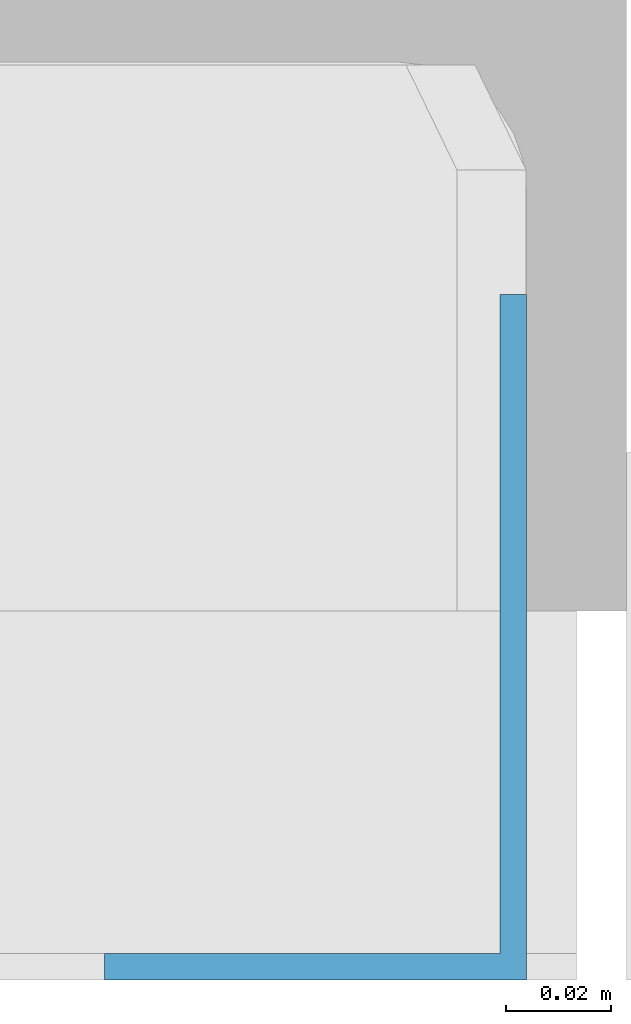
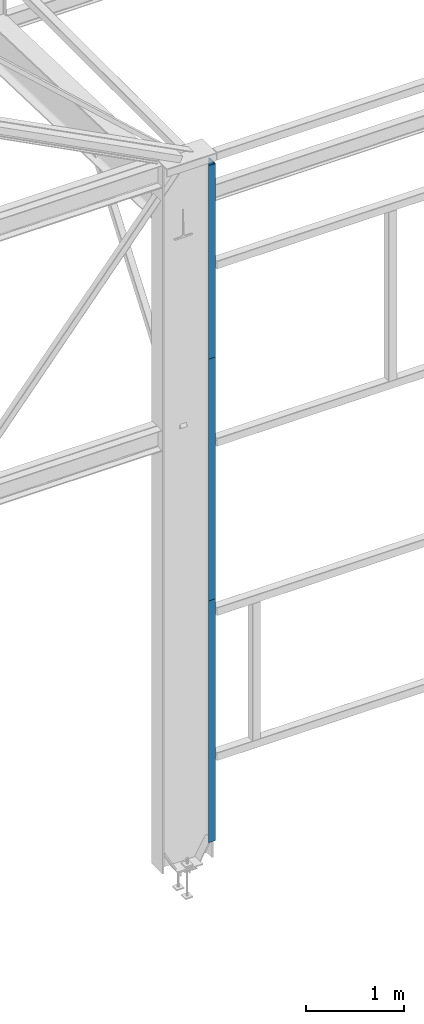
# One storey, part 118 of 123: 3 beams, 3 elements without a shape of their own.
"""IFC2X3 building model written with IfcOpenShell, lengths in millimetres."""

from ifc_helpers import new_model, si_unit, frame, origin_with_axes, place, context, subcontext, project, spatial, faceted_brep, material, type_object, element, aggregate, save


model = new_model("IFC2X3")

# Units and contexts
model_context = context("Model", 3, precision=1e-05, world=origin_with_axes())
body_context = subcontext(model_context, "Body", "Model", "MODEL_VIEW")
ifc_project = project(units=[si_unit("LENGTHUNIT", "METRE", prefix="MILLI"), si_unit("AREAUNIT", "SQUARE_METRE"), si_unit("VOLUMEUNIT", "CUBIC_METRE"), si_unit("MASSUNIT", "GRAM", prefix="KILO"), si_unit("TIMEUNIT", "SECOND"), si_unit("PLANEANGLEUNIT", "RADIAN"), si_unit("SOLIDANGLEUNIT", "STERADIAN"), si_unit("THERMODYNAMICTEMPERATUREUNIT", "DEGREE_CELSIUS"), si_unit("LUMINOUSINTENSITYUNIT", "LUMEN")], contexts=[model_context])

# Site, building, storey
site_placement = place(None, origin_with_axes())
site = spatial("IfcSite", under=ifc_project, at=site_placement, Name="Undefined", CompositionType="ELEMENT")
building_placement = place(site_placement, origin_with_axes())
building = spatial("IfcBuilding", under=site, at=building_placement, Name="Undefined", CompositionType="ELEMENT")
storey_placement = place(building_placement, origin_with_axes())
storey = spatial("IfcBuildingStorey", under=building, at=storey_placement, Name="Undefined", CompositionType="ELEMENT", Elevation=0.0)

# Assembly, beam
assembly_1_placement = place(storey_placement, origin_with_axes())
assembly_1 = element("IfcElementAssembly", 1, at=assembly_1_placement, inside=storey, Name="Steel Assembly", AssemblyPlace="NOTDEFINED", PredefinedType="RIGID_FRAME")
ifc_material = material(Name="STEEL/S235-E24")
beam_type_1 = type_object("IfcBeamType", Name="PL5*3000", PredefinedType="NOTDEFINED")
beam_1_placement = place(assembly_1_placement, frame((29081.0081684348, -177.499876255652, 4520.0000156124), z_axis=(0.0, 0.0, 1.0), x_axis=(1.0, 0.0, 0.0)))
beam_1 = element("IfcBeam", 2, at=beam_1_placement, type_object=beam_type_1, material=ifc_material, Name="FEUILLURE", ObjectType="PL5*3000", context=body_context, shape_type="Brep", body=[
    faceted_brep([(1.43700162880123e-09, -2.5, -1500.0), (6.47560227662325e-10, -2.49999999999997, 1500.0), (-1.43700162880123e-09, 2.50000000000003, 1500.0), (-6.43922248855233e-10, 2.5, -1500.0), (75.0000304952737, 2.49999995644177, 1500.0), (75.0000304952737, 2.49999995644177, -1500.0), (80.0000304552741, -2.50000004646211, -1500.0), (80.0000304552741, -2.50000004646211, 1500.0), (75.000031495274, 127.499999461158, 1500.0), (75.000031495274, 127.499999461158, -1500.0), (80.000031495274, 127.499999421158, 1500.0), (80.000031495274, 127.499999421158, -1500.0)], [[[0, 1, 2, 3]], [[3, 2, 4, 5]], [[1, 0, 6, 7]], [[5, 4, 8, 9]], [[4, 2, 1, 7, 10, 8]], [[7, 6, 11, 10]], [[6, 0, 3, 5, 9, 11]], [[10, 11, 9, 8]]]),
])
aggregate(assembly_1, [beam_1])

assembly_2_placement = place(storey_placement, origin_with_axes())
assembly_2 = element("IfcElementAssembly", 3, at=assembly_2_placement, inside=storey, Name="Steel Assembly", AssemblyPlace="NOTDEFINED", PredefinedType="RIGID_FRAME")
beam_2_placement = place(assembly_2_placement, frame((29081.0081693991, -177.499876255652, 1520.00001560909), z_axis=(0.0, 0.0, 1.0), x_axis=(1.0, 0.0, 0.0)))
beam_2 = element("IfcBeam", 4, at=beam_2_placement, type_object=beam_type_1, material=ifc_material, Name="FEUILLURE", ObjectType="PL5*3000", context=body_context, shape_type="Brep", body=[
    faceted_brep([(1.43700162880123e-09, -2.5, -1500.0), (6.47560227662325e-10, -2.49999999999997, 1500.0), (-1.43700162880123e-09, 2.50000000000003, 1500.0), (-6.43922248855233e-10, 2.5, -1500.0), (75.0000304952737, 2.49999995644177, 1500.0), (75.0000304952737, 2.49999995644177, -1500.0), (80.0000304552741, -2.50000004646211, -1500.0), (80.0000304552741, -2.50000004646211, 1500.0), (75.000031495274, 127.499999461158, 1500.0), (75.000031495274, 127.499999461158, -1500.0), (80.000031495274, 127.499999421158, 1500.0), (80.000031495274, 127.499999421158, -1500.0)], [[[0, 1, 2, 3]], [[3, 2, 4, 5]], [[1, 0, 6, 7]], [[5, 4, 8, 9]], [[4, 2, 1, 7, 10, 8]], [[7, 6, 11, 10]], [[6, 0, 3, 5, 9, 11]], [[10, 11, 9, 8]]]),
])
aggregate(assembly_2, [beam_2])

assembly_3_placement = place(storey_placement, origin_with_axes())
assembly_3 = element("IfcElementAssembly", 5, at=assembly_3_placement, inside=storey, Name="Steel Assembly", AssemblyPlace="NOTDEFINED", PredefinedType="RIGID_FRAME")
beam_type_2 = type_object("IfcBeamType", Name="PL5*2400", PredefinedType="NOTDEFINED")
beam_3_placement = place(assembly_3_placement, frame((29081.0081674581, -177.499876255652, 7220.0000156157), z_axis=(0.0, 0.0, 1.0), x_axis=(1.0, 0.0, 0.0)))
beam_3 = element("IfcBeam", 6, at=beam_3_placement, type_object=beam_type_2, material=ifc_material, Name="FEUILLURE", ObjectType="PL5*2400", context=body_context, shape_type="Brep", body=[
    faceted_brep([(-1.45155354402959e-09, -2.5, -1200.0), (-1.45155354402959e-09, -2.5, 1200.0), (1.45519152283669e-09, 2.5, 1200.0), (1.45519152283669e-09, 2.5, -1200.0), (75.0000305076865, 2.49999995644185, 1200.0), (75.0000305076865, 2.49999995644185, -1200.0), (80.0000304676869, -2.50000004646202, -1200.0), (80.0000304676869, -2.50000004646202, 1200.0), (75.0000315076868, 127.499999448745, 1200.0), (75.0000315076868, 127.499999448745, -1200.0), (80.0000315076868, 127.499999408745, 1200.0), (80.0000315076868, 127.499999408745, -1200.0)], [[[0, 1, 2, 3]], [[3, 2, 4, 5]], [[1, 0, 6, 7]], [[5, 4, 8, 9]], [[4, 2, 1, 7, 10, 8]], [[7, 6, 11, 10]], [[6, 0, 3, 5, 9, 11]], [[10, 11, 9, 8]]]),
])
aggregate(assembly_3, [beam_3])

save(model, "model.ifc")
